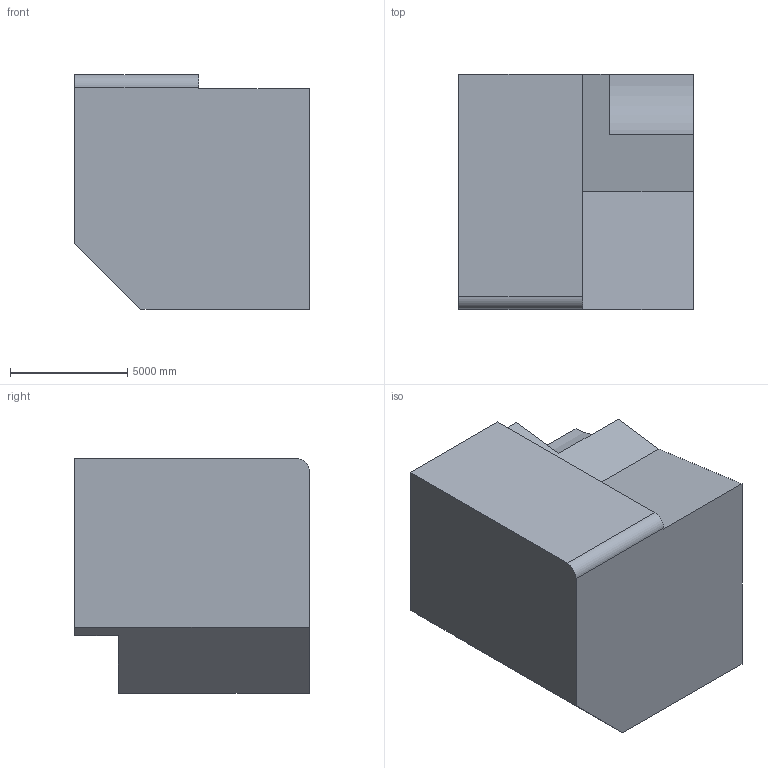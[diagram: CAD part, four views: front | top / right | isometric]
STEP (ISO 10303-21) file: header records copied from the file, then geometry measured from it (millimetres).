
FILE_DESCRIPTION (( 'STEP AP203' ), '1' );
FILE_NAME ('143.STEP', '2022-09-06T15:12:23', ( 'user' ), ( '' ), 'SwSTEP 2.0', 'SolidWorks 2021', '' );
FILE_SCHEMA (( 'CONFIG_CONTROL_DESIGN' ));
Length unit declared in the file: centimetre
Products named in the file (1): 143
Bounding box: 10000 x 10000 x 10000 mm (x, y, z)
Volume: 863540545819.4 mm3; surface area: 557472904.5 mm2
Topology: 1 solids, 1 shells, 15 faces, 39 edges, 26 vertices
Faces by surface type: plane 13, cylinder 2
Entity records: 534 total; most frequent: CARTESIAN_POINT 81, ORIENTED_EDGE 78, DIRECTION 75, EDGE_CURVE 39, LINE 35, VECTOR 35, VERTEX_POINT 26, AXIS2_PLACEMENT_3D 20
